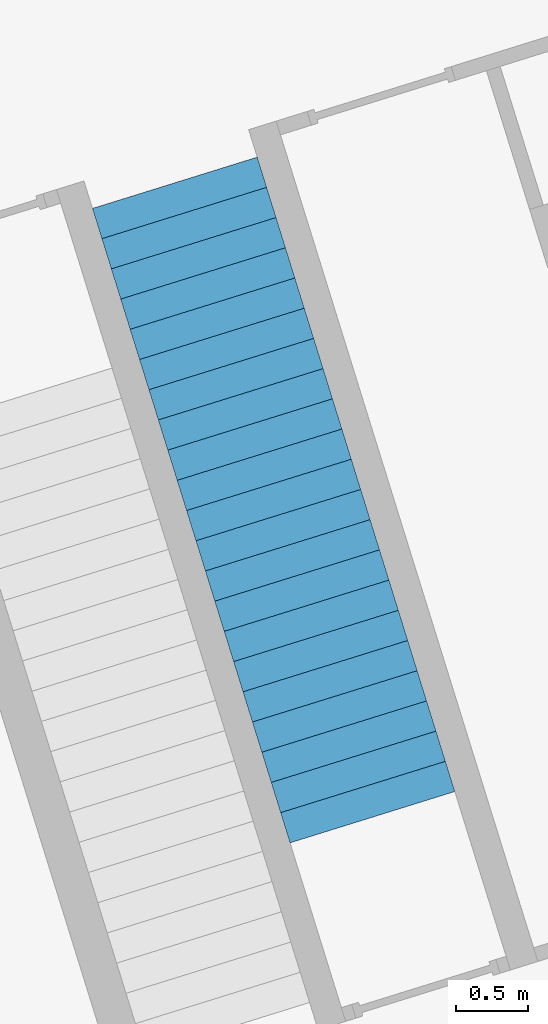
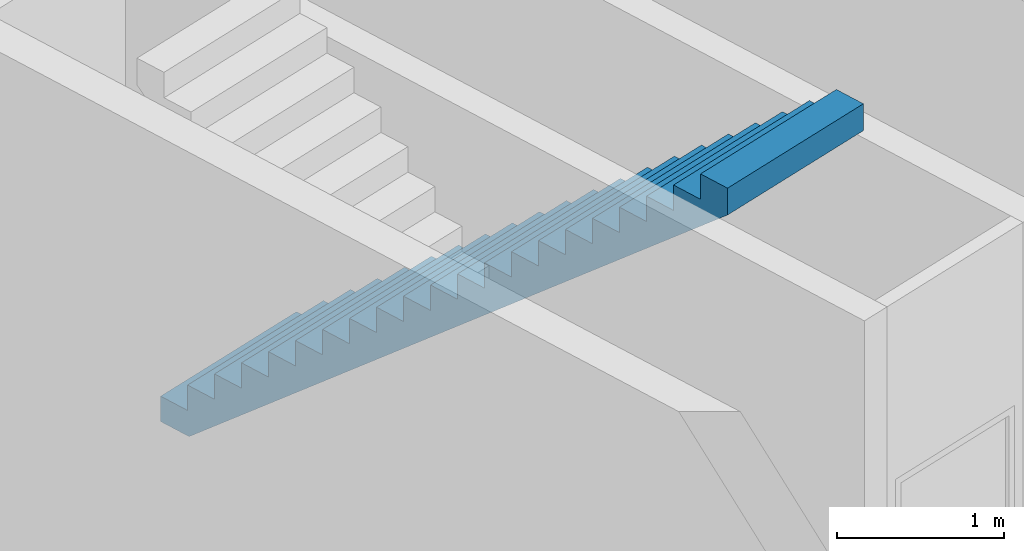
# One storey, part 5 of 5: 1 stair flight, 1 element without a shape of its own.
"""IFC4 building model written with IfcOpenShell, lengths in metres."""

from ifc_helpers import new_model, entity, si_unit, converted_unit, direction, frame, origin, place, context, subcontext, project, spatial, polygons, material, type_object, element, aggregate, save


model = new_model("IFC4")

# Units and contexts
model_context = context("Model", 3, precision=1e-05, world=origin(), true_north=direction((6.12323399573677e-17, 1.0)))
body_context = subcontext(model_context, "Body", "Model", "MODEL_VIEW")
ifc_project = project(units=[si_unit("LENGTHUNIT", "METRE"), si_unit("AREAUNIT", "SQUARE_METRE"), si_unit("VOLUMEUNIT", "CUBIC_METRE"), converted_unit("PLANEANGLEUNIT", "DEGREE", entity("IfcPlaneAngleMeasure", 0.0174532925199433), si_unit("PLANEANGLEUNIT", "RADIAN"), dimensions=[0, 0, 0, 0, 0, 0, 0])], contexts=[model_context])

# Site, building, storey
site_placement = place(None, frame((13.1347999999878, 11.9886000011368, 0.0), z_axis=(0.0, 0.0, 1.0), x_axis=(0.954770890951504, 0.297342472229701, 0.0)))
site = spatial("IfcSite", under=ifc_project, at=site_placement, Name="Schiehaven", CompositionType="ELEMENT")
building_placement = place(site_placement, origin())
building = spatial("IfcBuilding", under=site, at=building_placement, Name="VORM huis", CompositionType="ELEMENT")
storey_placement = place(building_placement, origin())
storey = spatial("IfcBuildingStorey", under=building, at=storey_placement, Name="00 begane grond", CompositionType="ELEMENT", Elevation=0.0)

# Stair, stair flight
stair_type = type_object("IfcStairType", Name="Trap", PredefinedType="STRAIGHT_RUN_STAIR")
stair_placement = place(storey_placement, origin())
stair = element("IfcStair", 1, at=stair_placement, inside=storey, type_object=stair_type, Name="Hoofdtrap", ObjectType="Trap", PredefinedType="STRAIGHT_RUN_STAIR")
ifc_material = material(Name="beton_gewapend_prefab-element", Category="Miscellaneous")
stair_flight_type = type_object("IfcStairFlightType", Name="Monolithic Run:NLRS_24_STRR_trap-beton prefab-monolithisch-recht_gen_rsf", PredefinedType="STRAIGHT")
stair_flight_placement = place(stair_placement, frame((66.5250000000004, 15.29, 0.0)))
stair_flight = element("IfcStairFlight", 2, at=stair_flight_placement, type_object=stair_flight_type, material=ifc_material, Name="Hoofdtrap Run 1", ObjectType="Monolithic Run:NLRS_24_STRR_trap-beton prefab-monolithisch-recht_gen_rsf", PredefinedType="STRAIGHT", context=body_context, shape_type="Tessellation", body=[
    polygons([(1.2, 4.4, 0.185714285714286), (1.2, 4.62, 0.185714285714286), (0.0, 4.62, 0.185714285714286), (0.0, 4.4, 0.185714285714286), (1.2, 4.4, 0.0), (1.2, 4.62, 0.0), (0.0, 4.62, 0.0), (0.0, 4.4, 0.0), (1.2, 4.18, 0.371428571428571), (1.2, 4.4, 0.371428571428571), (0.0, 4.4, 0.371428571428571), (0.0, 4.18, 0.371428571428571), (1.2, 4.18, 0.175129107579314), (1.2, 4.38746063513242, 0.0), (0.0, 4.38746063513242, 0.0), (0.0, 4.18, 0.175129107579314), (1.2, 3.96, 0.557142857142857), (1.2, 4.18, 0.557142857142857), (0.0, 4.18, 0.557142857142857), (0.0, 3.96, 0.557142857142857), (1.2, 3.96, 0.360843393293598), (0.0, 3.96, 0.360843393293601), (1.2, 3.74, 0.742857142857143), (1.2, 3.96, 0.742857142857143), (0.0, 3.96, 0.742857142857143), (0.0, 3.74, 0.742857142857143), (1.2, 3.74, 0.546557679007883), (0.0, 3.74, 0.546557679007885), (1.2, 3.52, 0.928571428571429), (1.2, 3.74, 0.928571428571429), (0.0, 3.74, 0.928571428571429), (0.0, 3.52, 0.928571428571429), (1.2, 3.52, 0.732271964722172), (0.0, 3.52, 0.732271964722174), (1.2, 3.3, 1.11428571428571), (1.2, 3.52, 1.11428571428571), (0.0, 3.52, 1.11428571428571), (0.0, 3.3, 1.11428571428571), (1.2, 3.3, 0.917986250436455), (0.0, 3.3, 0.917986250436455), (1.2, 3.08, 1.3), (1.2, 3.3, 1.3), (0.0, 3.3, 1.3), (0.0, 3.08, 1.3), (1.2, 3.08, 1.10370053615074), (0.0, 3.08, 1.10370053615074), (1.2, 2.86, 1.48571428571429), (1.2, 3.08, 1.48571428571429), (0.0, 3.08, 1.48571428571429), (0.0, 2.86, 1.48571428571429), (1.2, 2.86, 1.28941482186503), (0.0, 2.86, 1.28941482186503), (1.2, 2.64, 1.67142857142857), (1.2, 2.86, 1.67142857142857), (0.0, 2.86, 1.67142857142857), (0.0, 2.64, 1.67142857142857), (1.2, 2.64, 1.47512910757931), (0.0, 2.64, 1.47512910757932), (1.2, 2.41999999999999, 1.85714285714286), (1.2, 2.64, 1.85714285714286), (0.0, 2.64, 1.85714285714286), (0.0, 2.41999999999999, 1.85714285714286), (1.2, 2.42, 1.6608433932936), (0.0, 2.42, 1.6608433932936), (1.2, 2.19999999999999, 2.04285714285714), (1.2, 2.41999999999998, 2.04285714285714), (-1.4210854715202e-14, 2.41999999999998, 2.04285714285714), (-1.4210854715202e-14, 2.19999999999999, 2.04285714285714), (1.2, 2.19999999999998, 1.84655767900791), (-1.4210854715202e-14, 2.19999999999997, 1.84655767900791), (1.2, 1.98, 2.22857142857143), (1.2, 2.2, 2.22857142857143), (-1.4210854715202e-14, 2.2, 2.22857142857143), (-1.4210854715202e-14, 1.98, 2.22857142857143), (1.2, 1.98, 2.03227196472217), (-1.4210854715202e-14, 1.98, 2.03227196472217), (1.2, 1.76, 2.41428571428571), (1.2, 1.98, 2.41428571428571), (-1.4210854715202e-14, 1.98, 2.41428571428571), (-1.4210854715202e-14, 1.76, 2.41428571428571), (1.2, 1.76, 2.21798625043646), (-1.4210854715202e-14, 1.76, 2.21798625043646), (1.2, 1.54, 2.6), (1.2, 1.76, 2.6), (-1.4210854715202e-14, 1.76, 2.6), (-1.4210854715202e-14, 1.54, 2.6), (1.2, 1.54, 2.40370053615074), (-1.4210854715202e-14, 1.54, 2.40370053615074), (1.2, 1.32, 2.78571428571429), (1.2, 1.54, 2.78571428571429), (-1.4210854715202e-14, 1.54, 2.78571428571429), (-1.4210854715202e-14, 1.32, 2.78571428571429), (1.2, 1.32, 2.58941482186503), (-1.4210854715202e-14, 1.31999999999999, 2.58941482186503), (1.2, 1.1, 2.97142857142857), (1.2, 1.31999999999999, 2.97142857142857), (-1.4210854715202e-14, 1.31999999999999, 2.97142857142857), (-1.4210854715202e-14, 1.1, 2.97142857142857), (1.2, 1.1, 2.77512910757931), (-1.4210854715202e-14, 1.1, 2.77512910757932), (1.2, 0.880000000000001, 3.15714285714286), (1.2, 1.1, 3.15714285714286), (-1.4210854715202e-14, 1.1, 3.15714285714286), (-1.4210854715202e-14, 0.880000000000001, 3.15714285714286), (1.2, 0.880000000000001, 2.9608433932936), (-1.4210854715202e-14, 0.880000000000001, 2.9608433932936), (1.2, 0.659999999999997, 3.34285714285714), (1.2, 0.880000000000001, 3.34285714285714), (-1.4210854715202e-14, 0.880000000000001, 3.34285714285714), (-1.4210854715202e-14, 0.659999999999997, 3.34285714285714), (1.2, 0.660000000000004, 3.14655767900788), (-1.4210854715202e-14, 0.659999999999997, 3.14655767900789), (1.2, 0.44, 3.52857142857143), (1.2, 0.659999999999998, 3.52857142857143), (-1.4210854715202e-14, 0.659999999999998, 3.52857142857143), (-1.4210854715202e-14, 0.44, 3.52857142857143), (1.2, 0.440000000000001, 3.33227196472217), (-1.4210854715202e-14, 0.439999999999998, 3.33227196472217), (1.2, 0.219999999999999, 3.71428571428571), (1.2, 0.440000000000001, 3.71428571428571), (-1.4210854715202e-14, 0.440000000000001, 3.71428571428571), (-1.4210854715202e-14, 0.219999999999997, 3.71428571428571), (1.2, 0.220000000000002, 3.51798625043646), (-1.4210854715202e-14, 0.219999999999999, 3.51798625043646), (1.2, -1.77635683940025e-15, 3.9), (1.2, 0.219999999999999, 3.9), (-1.4210854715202e-14, 0.219999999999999, 3.9), (-1.4210854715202e-14, -1.77635683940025e-15, 3.9), (1.2, 0.0, 3.70370053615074), (-1.4210854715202e-14, 0.0, 3.70370053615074)], [[[1, 2, 3, 4]], [[2, 1, 5, 6]], [[3, 2, 6, 7]], [[4, 3, 7, 8]], [[9, 10, 11, 12]], [[5, 1, 10, 9, 13, 14]], [[1, 4, 11, 10]], [[4, 8, 15, 16, 12, 11]], [[17, 18, 19, 20]], [[18, 17, 21, 13, 9]], [[9, 12, 19, 18]], [[20, 19, 12, 16, 22]], [[23, 24, 25, 26]], [[24, 23, 27, 21, 17]], [[17, 20, 25, 24]], [[26, 25, 20, 22, 28]], [[29, 30, 31, 32]], [[30, 29, 33, 27, 23]], [[23, 26, 31, 30]], [[32, 31, 26, 28, 34]], [[35, 36, 37, 38]], [[36, 35, 39, 33, 29]], [[29, 32, 37, 36]], [[38, 37, 32, 34, 40]], [[41, 42, 43, 44]], [[42, 41, 45, 39, 35]], [[35, 38, 43, 42]], [[44, 43, 38, 40, 46]], [[47, 48, 49, 50]], [[48, 47, 51, 45, 41]], [[41, 44, 49, 48]], [[50, 49, 44, 46, 52]], [[53, 54, 55, 56]], [[54, 53, 57, 51, 47]], [[47, 50, 55, 54]], [[56, 55, 50, 52, 58]], [[59, 60, 61, 62]], [[60, 59, 63, 57, 53]], [[53, 56, 61, 60]], [[62, 61, 56, 58, 64]], [[65, 66, 67, 68]], [[66, 65, 69, 63, 59]], [[59, 62, 67, 66]], [[68, 67, 62, 64, 70]], [[71, 72, 73, 74]], [[72, 71, 75, 69, 65]], [[65, 68, 73, 72]], [[74, 73, 68, 70, 76]], [[77, 78, 79, 80]], [[78, 77, 81, 75, 71]], [[71, 74, 79, 78]], [[80, 79, 74, 76, 82]], [[83, 84, 85, 86]], [[84, 83, 87, 81, 77]], [[77, 80, 85, 84]], [[86, 85, 80, 82, 88]], [[89, 90, 91, 92]], [[90, 89, 93, 87, 83]], [[83, 86, 91, 90]], [[92, 91, 86, 88, 94]], [[95, 96, 97, 98]], [[96, 95, 99, 93, 89]], [[89, 92, 97, 96]], [[98, 97, 92, 94, 100]], [[101, 102, 103, 104]], [[102, 101, 105, 99, 95]], [[95, 98, 103, 102]], [[104, 103, 98, 100, 106]], [[107, 108, 109, 110]], [[108, 107, 111, 105, 101]], [[101, 104, 109, 108]], [[110, 109, 104, 106, 112]], [[113, 114, 115, 116]], [[114, 113, 117, 111, 107]], [[107, 110, 115, 114]], [[116, 115, 110, 112, 118]], [[119, 120, 121, 122]], [[120, 119, 123, 117, 113]], [[113, 116, 121, 120]], [[122, 121, 116, 118, 124]], [[125, 126, 127, 128]], [[126, 125, 129, 123, 119]], [[119, 122, 127, 126]], [[128, 127, 122, 124, 130]], [[125, 128, 130, 129]], [[6, 5, 14, 15, 8, 7]], [[15, 14, 13, 21, 27, 33, 39, 45, 51, 57, 63, 69, 75, 81, 87, 93, 99, 105, 111, 117, 123, 129, 130, 124, 118, 112, 106, 100, 94, 88, 82, 76, 70, 64, 58, 52, 46, 40, 34, 28, 22, 16]]], closed=True),
])
aggregate(stair, [stair_flight])

save(model, "model.ifc")
